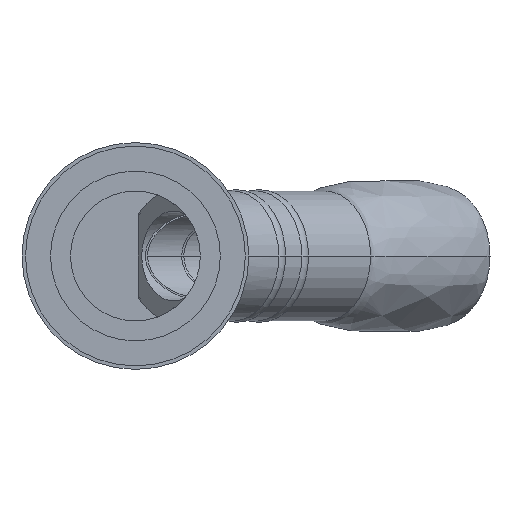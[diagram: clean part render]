
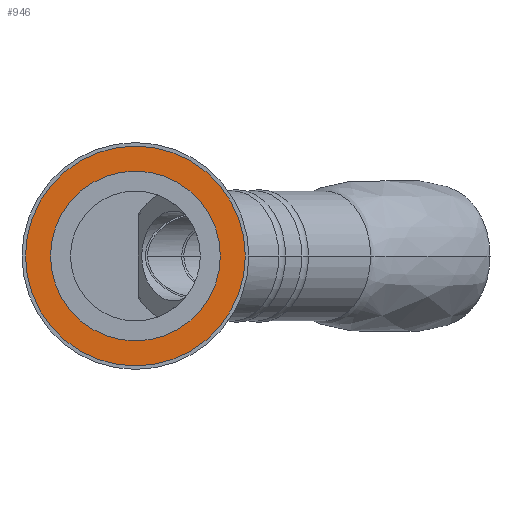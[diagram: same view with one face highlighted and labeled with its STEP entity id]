
A CAD part, left-side view. The second image highlights one B-rep face of the part: STEP entity #946.
In plain terms, the highlighted planar face has unit normal (-1, 0, 0).
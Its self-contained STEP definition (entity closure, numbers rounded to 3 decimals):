
#1 = CARTESIAN_POINT ( 'NONE',  ( 4., 0., 0. ) ) ;
#44 = CARTESIAN_POINT ( 'NONE',  ( 4., 0., -8.5 ) ) ;
#88 = EDGE_LOOP ( 'NONE', ( #1181, #490 ) ) ;
#98 = DIRECTION ( 'NONE',  ( -1., 0., 0. ) ) ;
#117 = DIRECTION ( 'NONE',  ( 0., 0., 1. ) ) ;
#147 = FACE_OUTER_BOUND ( 'NONE', #88, .T. ) ;
#187 = CIRCLE ( 'NONE', #440, 8.5 ) ;
#230 = AXIS2_PLACEMENT_3D ( 'NONE', #742, #1129, #358 ) ;
#358 = DIRECTION ( 'NONE',  ( 0., 0., -1. ) ) ;
#373 = FACE_BOUND ( 'NONE', #1657, .T. ) ;
#380 = VERTEX_POINT ( 'NONE', #1496 ) ;
#440 = AXIS2_PLACEMENT_3D ( 'NONE', #1445, #1345, #1243 ) ;
#490 = ORIENTED_EDGE ( 'NONE', *, *, #908, .T. ) ;
#539 = CIRCLE ( 'NONE', #1223, 11. ) ;
#571 = EDGE_CURVE ( 'NONE', #789, #876, #1654, .T. ) ;
#597 = PLANE ( 'NONE',  #230 ) ;
#665 = CIRCLE ( 'NONE', #1432, 11. ) ;
#725 = DIRECTION ( 'NONE',  ( -1., 0., 0. ) ) ;
#742 = CARTESIAN_POINT ( 'NONE',  ( 4., 8.5, 0. ) ) ;
#789 = VERTEX_POINT ( 'NONE', #44 ) ;
#868 = EDGE_CURVE ( 'NONE', #876, #789, #187, .T. ) ;
#875 = CARTESIAN_POINT ( 'NONE',  ( 4., 0., 0. ) ) ;
#876 = VERTEX_POINT ( 'NONE', #1368 ) ;
#881 = ORIENTED_EDGE ( 'NONE', *, *, #571, .F. ) ;
#899 = DIRECTION ( 'NONE',  ( -1., 0., 0. ) ) ;
#908 = EDGE_CURVE ( 'NONE', #1366, #380, #539, .T. ) ;
#937 = CARTESIAN_POINT ( 'NONE',  ( 4., 0., -11. ) ) ;
#946 = ADVANCED_FACE ( 'NONE', ( #373, #147 ), #597, .F. ) ;
#1008 = DIRECTION ( 'NONE',  ( 0., 0., 1. ) ) ;
#1129 = DIRECTION ( 'NONE',  ( 1., 0., 0. ) ) ;
#1156 = AXIS2_PLACEMENT_3D ( 'NONE', #875, #98, #1008 ) ;
#1181 = ORIENTED_EDGE ( 'NONE', *, *, #1241, .T. ) ;
#1223 = AXIS2_PLACEMENT_3D ( 'NONE', #1495, #725, #1632 ) ;
#1241 = EDGE_CURVE ( 'NONE', #380, #1366, #665, .T. ) ;
#1243 = DIRECTION ( 'NONE',  ( 0., 0., 1. ) ) ;
#1345 = DIRECTION ( 'NONE',  ( -1., 0., 0. ) ) ;
#1366 = VERTEX_POINT ( 'NONE', #937 ) ;
#1368 = CARTESIAN_POINT ( 'NONE',  ( 4., 0., 8.5 ) ) ;
#1432 = AXIS2_PLACEMENT_3D ( 'NONE', #1, #899, #117 ) ;
#1445 = CARTESIAN_POINT ( 'NONE',  ( 4., 0., 0. ) ) ;
#1485 = ORIENTED_EDGE ( 'NONE', *, *, #868, .F. ) ;
#1495 = CARTESIAN_POINT ( 'NONE',  ( 4., 0., 0. ) ) ;
#1496 = CARTESIAN_POINT ( 'NONE',  ( 4., 0., 11. ) ) ;
#1632 = DIRECTION ( 'NONE',  ( 0., 0., 1. ) ) ;
#1654 = CIRCLE ( 'NONE', #1156, 8.5 ) ;
#1657 = EDGE_LOOP ( 'NONE', ( #1485, #881 ) ) ;
